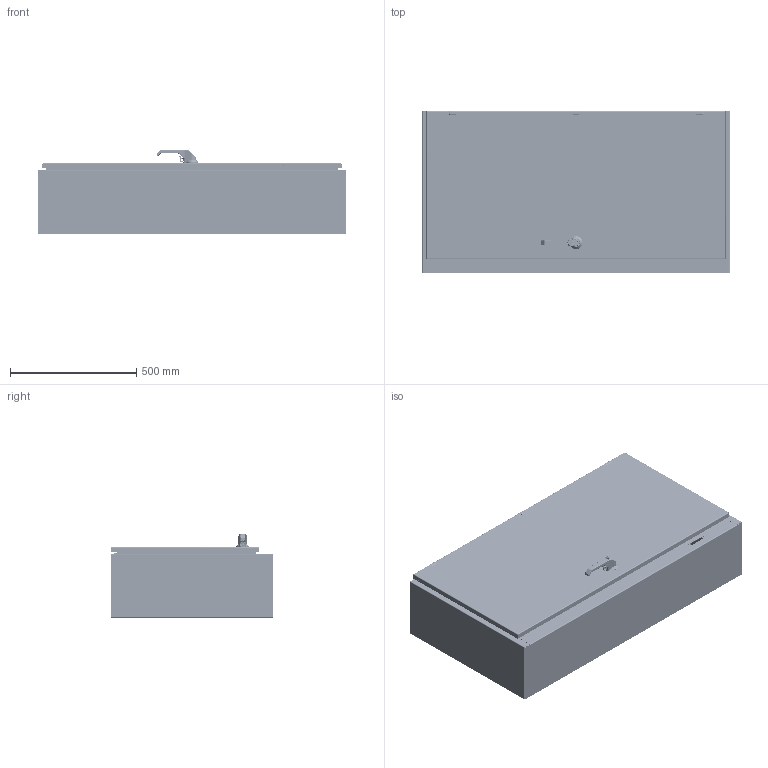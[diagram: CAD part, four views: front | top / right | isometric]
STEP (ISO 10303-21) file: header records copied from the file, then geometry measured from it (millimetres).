
FILE_DESCRIPTION((''),'2;1');
FILE_NAME('MODEL-314_ASM','2024-06-18T16:10:42',('mikek'),('SAGINAW CONTROL & ENGINEERING'),'CREO PARAMETRIC BY PTC INC, 2021284','CREO PARAMETRIC BY PTC INC, 2021284','');
FILE_SCHEMA(('AUTOMOTIVE_DESIGN { 1 0 10303 214 1 1 1 1 }'));
Length unit declared in the file: inch
Products named in the file (57): MODEL-314-BDY; MODEL-314-LS; MODEL-314-RS; MODEL-314-DR; 100837; 100882; 111267; 100953_SCREW_MTG; 100953_PADLOCK_CATCH; 100953_SCREW_LARGE; 100953_INSERT_SHAFT; 100953_INSERT_PCH; 100953_GASKET; 100953_O-RING; 100953_BASE; 100953_SPRING; 100953_HANDLE; 100953_CAM_SHAFT; 100953_HANDLE_ASM; 100953_CAM_ADAPTER; 100953_EARTH_NUT; 100953_FLANGE_NUT; 100953_CAM_NUT; 100953_CP_INSERT; 100953_SPRING_CAM; 100953_TORSION_SPRING; 100953_SCREW_INSERT; 100953_ASM; 102237; 100030; 102237_ASM; MODEL-314-ROD-UPR; 128146; 128145; 128144; 102482; MODEL-314-ROD-UPR_ASM; 128143; 112504; MODEL-314-ROD-LWR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
Assembly tree (105 placements, depth 5):
  MODEL-314_ASM
    MODEL-314-BDY
    MODEL-314-LS
    MODEL-314-RS
    MODEL-314-DOOR-ASSY_ASM
      MODEL-314-DR
      100837  x7
      100882  x4
      111267
      100953_ASM
        100953_SCREW_MTG
        100953_PADLOCK_CATCH
        100953_SCREW_LARGE  x2
        100953_INSERT_SHAFT
        100953_INSERT_PCH
        100953_GASKET
        100953_O-RING
        100953_BASE
        100953_SPRING
        100953_HANDLE_ASM
          100953_HANDLE
          100953_CAM_SHAFT
        100953_CAM_ADAPTER
        100953_EARTH_NUT
        100953_FLANGE_NUT
        100953_CAM_NUT
        100953_CP_INSERT
        100953_SPRING_CAM
        100953_TORSION_SPRING
        100953_SCREW_INSERT
      102237_ASM
        102237
        100030  x2
      MODEL-314-ROD-UPR_ASM
        MODEL-314-ROD-UPR
        128146
        128145
        128144
        102482  x2
      128143  x2
      112504  x2
      MODEL-314-ROD-LWR_ASM
        MODEL-314-ROD-LWR
        128146
        128145
        128144
        102482  x2
      MODEL-314-GSKT
      126391_ASM  x3
        126391
      126393  x3
      102483  x9
      101226  x3
      101376  x3
      102140  x3
    100837  x2
    103357
    101653  x6
    122192
    SUBPANEL-SUBASSEMBLY_ASM
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Bounding box: 1219.2 x 644.52 x 332.33 mm (x, y, z)
Volume: 8036363.4 mm3; surface area: 7263117.5 mm2
Topology: 102 solids, 102 shells, 8808 faces, 21971 edges, 13373 vertices
Faces by surface type: plane 3082, cylinder 2306, bspline 1690, torus 776, cone 622, sphere 302, extrusion 30
Entity records: 325695 total; most frequent: CARTESIAN_POINT 138684, ORIENTED_EDGE 29324, DIRECTION 26121, PRESENTATION_STYLE_ASSIGNMENT 14719, STYLED_ITEM 14714, CURVE_STYLE 14662, EDGE_CURVE 14662, AXIS2_PLACEMENT_3D 9708
